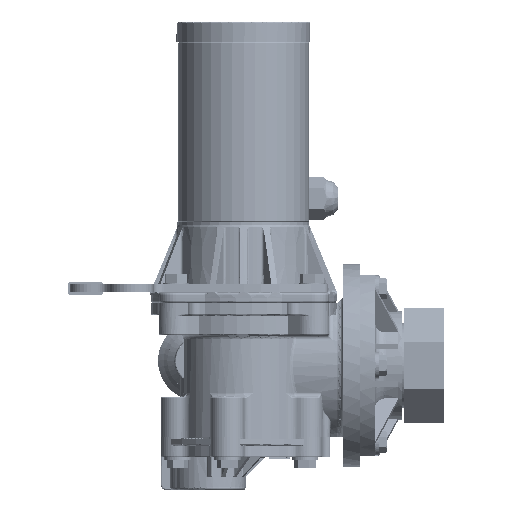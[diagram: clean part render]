
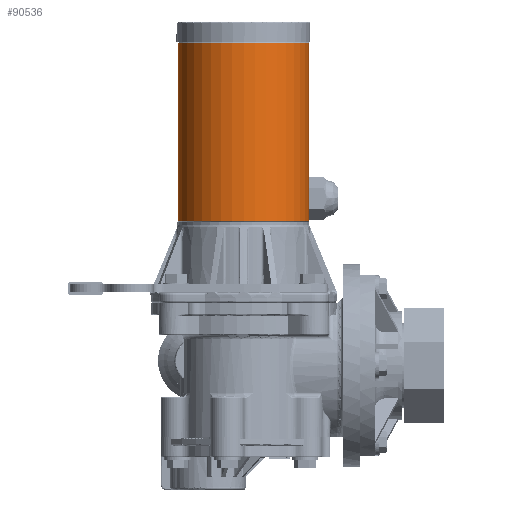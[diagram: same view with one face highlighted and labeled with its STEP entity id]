
A CAD part, left-side view. The second image highlights one B-rep face of the part: STEP entity #90536.
In plain terms, the highlighted cylindrical face has radius 38.976 mm (diameter 77.953 mm), a full revolution.
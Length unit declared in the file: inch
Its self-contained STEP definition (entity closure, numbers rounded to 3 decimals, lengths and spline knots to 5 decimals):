
#4943=FACE_BOUND('',#14225,.T.);
#8926=FACE_OUTER_BOUND('',#14224,.T.);
#14224=EDGE_LOOP('',(#62074,#62075,#62076,#62077));
#14225=EDGE_LOOP('',(#62078,#62079,#62080,#62081));
#19943=LINE('',#138719,#27169);
#19946=LINE('',#138727,#27172);
#19950=LINE('',#138736,#27176);
#19955=LINE('',#138752,#27181);
#27169=VECTOR('',#105922,0.3937);
#27172=VECTOR('',#105931,0.3937);
#27176=VECTOR('',#105937,0.3937);
#27181=VECTOR('',#105950,0.3937);
#34134=CIRCLE('',#96314,1.5345);
#34135=CIRCLE('',#96318,1.5345);
#34136=CIRCLE('',#96322,1.5345);
#34138=CIRCLE('',#96325,1.5345);
#37643=VERTEX_POINT('',#138715);
#37644=VERTEX_POINT('',#138717);
#37645=VERTEX_POINT('',#138721);
#37646=VERTEX_POINT('',#138725);
#37648=VERTEX_POINT('',#138730);
#37650=VERTEX_POINT('',#138734);
#37651=VERTEX_POINT('',#138738);
#37654=VERTEX_POINT('',#138750);
#46853=EDGE_CURVE('',#37643,#37644,#19943,.T.);
#46854=EDGE_CURVE('',#37644,#37645,#34134,.T.);
#46857=EDGE_CURVE('',#37645,#37646,#19946,.T.);
#46861=EDGE_CURVE('',#37648,#37650,#19950,.T.);
#46862=EDGE_CURVE('',#37650,#37651,#34135,.T.);
#46868=EDGE_CURVE('',#37651,#37654,#19955,.T.);
#46869=EDGE_CURVE('',#37643,#37646,#34136,.T.);
#46871=EDGE_CURVE('',#37648,#37654,#34138,.T.);
#62074=ORIENTED_EDGE('',*,*,#46861,.T.);
#62075=ORIENTED_EDGE('',*,*,#46862,.T.);
#62076=ORIENTED_EDGE('',*,*,#46868,.T.);
#62077=ORIENTED_EDGE('',*,*,#46871,.F.);
#62078=ORIENTED_EDGE('',*,*,#46857,.T.);
#62079=ORIENTED_EDGE('',*,*,#46869,.F.);
#62080=ORIENTED_EDGE('',*,*,#46853,.T.);
#62081=ORIENTED_EDGE('',*,*,#46854,.T.);
#83813=CYLINDRICAL_SURFACE('',#96324,1.5345);
#90536=ADVANCED_FACE('',(#8926,#4943),#83813,.T.);
#96314=AXIS2_PLACEMENT_3D('',#138722,#105925,#105926);
#96318=AXIS2_PLACEMENT_3D('',#138739,#105940,#105941);
#96322=AXIS2_PLACEMENT_3D('',#138754,#105953,#105954);
#96324=AXIS2_PLACEMENT_3D('',#138757,#105957,#105958);
#96325=AXIS2_PLACEMENT_3D('',#138758,#105959,#105960);
#105922=DIRECTION('',(0.,0.,-1.));
#105925=DIRECTION('center_axis',(0.,0.,
-1.));
#105926=DIRECTION('ref_axis',(-1.,0.,0.));
#105931=DIRECTION('',(0.,0.,1.));
#105937=DIRECTION('',(0.,0.,1.));
#105940=DIRECTION('center_axis',(0.,0.,
1.));
#105941=DIRECTION('ref_axis',(-1.,0.,0.));
#105950=DIRECTION('',(0.,0.,-1.));
#105953=DIRECTION('center_axis',(0.,0.,
1.));
#105954=DIRECTION('ref_axis',(-1.,0.,0.));
#105957=DIRECTION('center_axis',(0.,0.,
1.));
#105958=DIRECTION('ref_axis',(-1.,0.,0.));
#105959=DIRECTION('center_axis',(0.,0.,
-1.));
#105960=DIRECTION('ref_axis',(-1.,0.,0.));
#138715=CARTESIAN_POINT('',(-0.004,1.53449,6.359));
#138717=CARTESIAN_POINT('',(-0.004,1.53449,6.264));
#138719=CARTESIAN_POINT('',(-0.004,1.53449,2.164));
#138721=CARTESIAN_POINT('',(0.004,1.53449,6.264));
#138722=CARTESIAN_POINT('Origin',(0.,0.,
6.264));
#138725=CARTESIAN_POINT('',(0.004,1.53449,6.359));
#138727=CARTESIAN_POINT('',(0.004,1.53449,2.164));
#138730=CARTESIAN_POINT('',(0.004,1.53449,2.194));
#138734=CARTESIAN_POINT('',(0.004,1.53449,2.489));
#138736=CARTESIAN_POINT('',(0.004,1.53449,2.164));
#138738=CARTESIAN_POINT('',(-0.004,1.53449,2.489));
#138739=CARTESIAN_POINT('Origin',(0.,0.,
2.489));
#138750=CARTESIAN_POINT('',(-0.004,1.53449,2.194));
#138752=CARTESIAN_POINT('',(-0.004,1.53449,2.164));
#138754=CARTESIAN_POINT('Origin',(0.,0.,
6.359));
#138757=CARTESIAN_POINT('Origin',(0.,0.,
2.164));
#138758=CARTESIAN_POINT('Origin',(0.,0.,
2.194));
